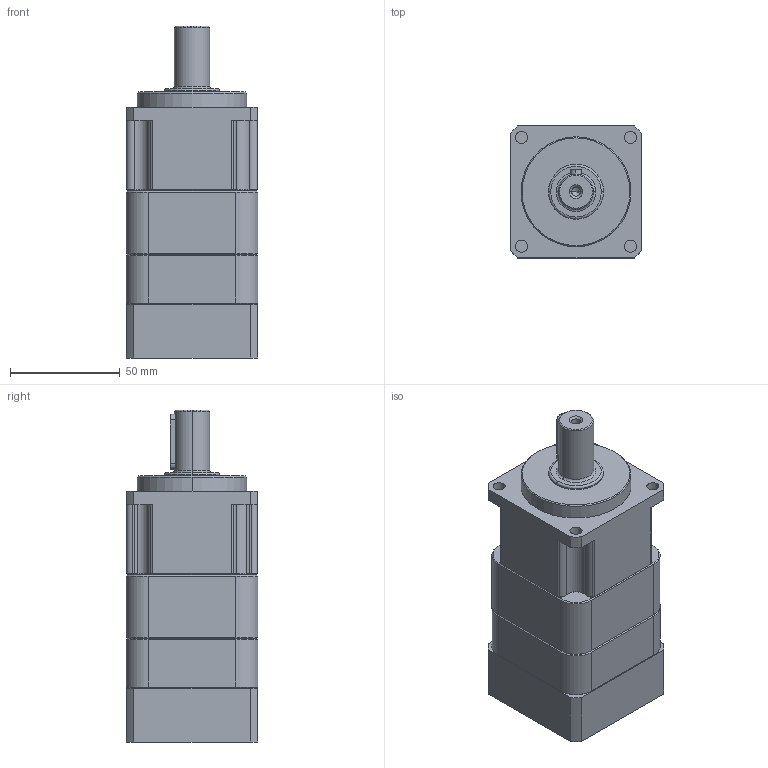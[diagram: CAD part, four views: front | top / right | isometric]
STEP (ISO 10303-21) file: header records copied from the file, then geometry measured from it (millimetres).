
FILE_DESCRIPTION (( 'STEP AP214' ), '1' );
FILE_NAME ('PAB-060-L2-S2-P1 14-50-70-M4.STEP', '2023-06-05T03:41:19', ( '微软用户' ), ( '微软中国' ), 'SwSTEP 2.0', 'SolidWorks 2018', '' );
FILE_SCHEMA (( 'AUTOMOTIVE_DESIGN' ));
Length unit declared in the file: millimetre
Products named in the file (1): PAB-060-L2-S2-P1 14-50-70-M4
Bounding box: 60 x 60 x 151 mm (x, y, z)
Volume: 381716.3 mm3; surface area: 44567.4 mm2
Topology: 2 solids, 2 shells, 194 faces, 453 edges, 273 vertices
Faces by surface type: cylinder 75, plane 67, cone 48, torus 4
Entity records: 5590 total; most frequent: DIRECTION 1043, CARTESIAN_POINT 943, ORIENTED_EDGE 902, EDGE_CURVE 451, AXIS2_PLACEMENT_3D 405, VERTEX_POINT 273, LINE 233, VECTOR 233
